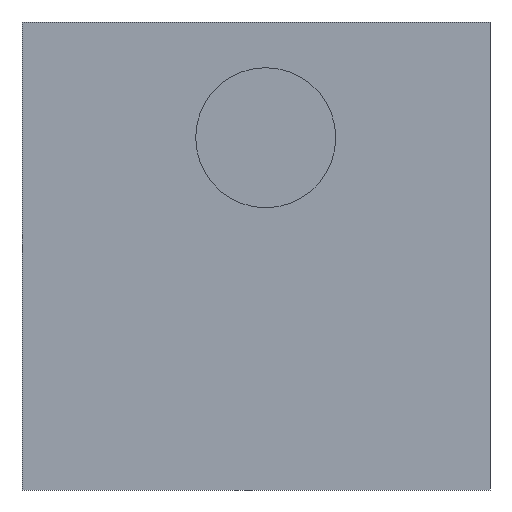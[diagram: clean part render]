
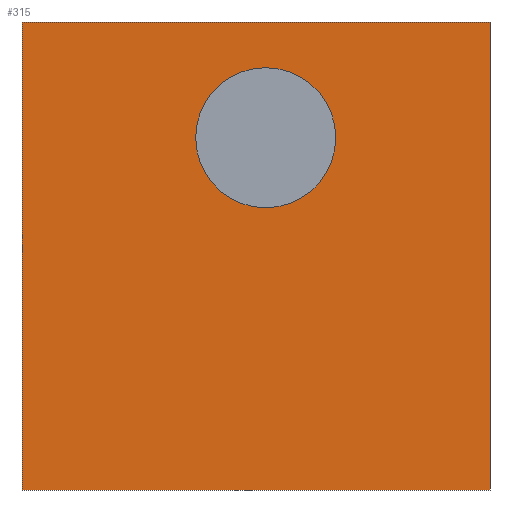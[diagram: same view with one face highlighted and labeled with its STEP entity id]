
A CAD part, front view. The second image highlights one B-rep face of the part: STEP entity #315.
In plain terms, the highlighted planar face has unit normal (0, -1, 0).
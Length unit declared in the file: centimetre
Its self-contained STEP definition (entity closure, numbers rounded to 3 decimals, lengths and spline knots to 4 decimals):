
#55 = DIRECTION ( 'NONE',  ( 1., 0., 0. ) ) ;
#60 = CARTESIAN_POINT ( 'NONE',  ( 1000., 0., 0. ) ) ;
#73 = FACE_OUTER_BOUND ( 'NONE', #219, .T. ) ;
#86 = CARTESIAN_POINT ( 'NONE',  ( 0., 0., 1000. ) ) ;
#152 = VERTEX_POINT ( 'NONE', #60 ) ;
#167 = VECTOR ( 'NONE', #465, 100. ) ;
#169 = EDGE_CURVE ( 'NONE', #786, #335, #446, .T. ) ;
#180 = DIRECTION ( 'NONE',  ( 0., 0., -1. ) ) ;
#216 = FACE_BOUND ( 'NONE', #858, .T. ) ;
#219 = EDGE_LOOP ( 'NONE', ( #564, #270, #923, #264 ) ) ;
#223 = VERTEX_POINT ( 'NONE', #950 ) ;
#227 = VERTEX_POINT ( 'NONE', #293 ) ;
#237 = AXIS2_PLACEMENT_3D ( 'NONE', #810, #804, #579 ) ;
#243 = EDGE_CURVE ( 'NONE', #296, #227, #857, .T. ) ;
#258 = CARTESIAN_POINT ( 'NONE',  ( 0., 0., 0. ) ) ;
#264 = ORIENTED_EDGE ( 'NONE', *, *, #504, .T. ) ;
#270 = ORIENTED_EDGE ( 'NONE', *, *, #377, .F. ) ;
#287 = DIRECTION ( 'NONE',  ( 0., -1., 0. ) ) ;
#289 = VECTOR ( 'NONE', #545, 100. ) ;
#293 = CARTESIAN_POINT ( 'NONE',  ( 520.7933, 0., 603.1356 ) ) ;
#296 = VERTEX_POINT ( 'NONE', #949 ) ;
#315 = ADVANCED_FACE ( 'NONE', ( #216, #73 ), #424, .F. ) ;
#318 = LINE ( 'NONE', #479, #167 ) ;
#328 = VECTOR ( 'NONE', #55, 100. ) ;
#335 = VERTEX_POINT ( 'NONE', #863 ) ;
#340 = DIRECTION ( 'NONE',  ( 1., 0., 0. ) ) ;
#346 = LINE ( 'NONE', #258, #756 ) ;
#377 = EDGE_CURVE ( 'NONE', #335, #152, #392, .T. ) ;
#381 = EDGE_CURVE ( 'NONE', #223, #152, #346, .T. ) ;
#392 = LINE ( 'NONE', #628, #289 ) ;
#413 = CARTESIAN_POINT ( 'NONE',  ( 520.7933, 0., 752.7964 ) ) ;
#424 = PLANE ( 'NONE',  #237 ) ;
#432 = CARTESIAN_POINT ( 'NONE',  ( 0., 0., 1000. ) ) ;
#446 = LINE ( 'NONE', #432, #328 ) ;
#456 = EDGE_CURVE ( 'NONE', #227, #296, #509, .T. ) ;
#465 = DIRECTION ( 'NONE',  ( 0., 0., -1. ) ) ;
#479 = CARTESIAN_POINT ( 'NONE',  ( 0., 0., 1000. ) ) ;
#488 = ORIENTED_EDGE ( 'NONE', *, *, #243, .F. ) ;
#491 = AXIS2_PLACEMENT_3D ( 'NONE', #574, #287, #505 ) ;
#504 = EDGE_CURVE ( 'NONE', #786, #223, #318, .T. ) ;
#505 = DIRECTION ( 'NONE',  ( 0., 0., -1. ) ) ;
#509 = CIRCLE ( 'NONE', #622, 149.6608 ) ;
#545 = DIRECTION ( 'NONE',  ( 0., 0., -1. ) ) ;
#564 = ORIENTED_EDGE ( 'NONE', *, *, #381, .T. ) ;
#574 = CARTESIAN_POINT ( 'NONE',  ( 520.7933, 0., 752.7964 ) ) ;
#579 = DIRECTION ( 'NONE',  ( 0., 0., 1. ) ) ;
#622 = AXIS2_PLACEMENT_3D ( 'NONE', #413, #641, #180 ) ;
#625 = ORIENTED_EDGE ( 'NONE', *, *, #456, .F. ) ;
#628 = CARTESIAN_POINT ( 'NONE',  ( 1000., 0., 1000. ) ) ;
#641 = DIRECTION ( 'NONE',  ( 0., -1., 0. ) ) ;
#756 = VECTOR ( 'NONE', #340, 100. ) ;
#786 = VERTEX_POINT ( 'NONE', #86 ) ;
#804 = DIRECTION ( 'NONE',  ( 0., 1., 0. ) ) ;
#810 = CARTESIAN_POINT ( 'NONE',  ( 0., 0., 1000. ) ) ;
#857 = CIRCLE ( 'NONE', #491, 149.6608 ) ;
#858 = EDGE_LOOP ( 'NONE', ( #625, #488 ) ) ;
#863 = CARTESIAN_POINT ( 'NONE',  ( 1000., 0., 1000. ) ) ;
#923 = ORIENTED_EDGE ( 'NONE', *, *, #169, .F. ) ;
#949 = CARTESIAN_POINT ( 'NONE',  ( 520.7933, 0., 902.4572 ) ) ;
#950 = CARTESIAN_POINT ( 'NONE',  ( 0., 0., 0. ) ) ;
